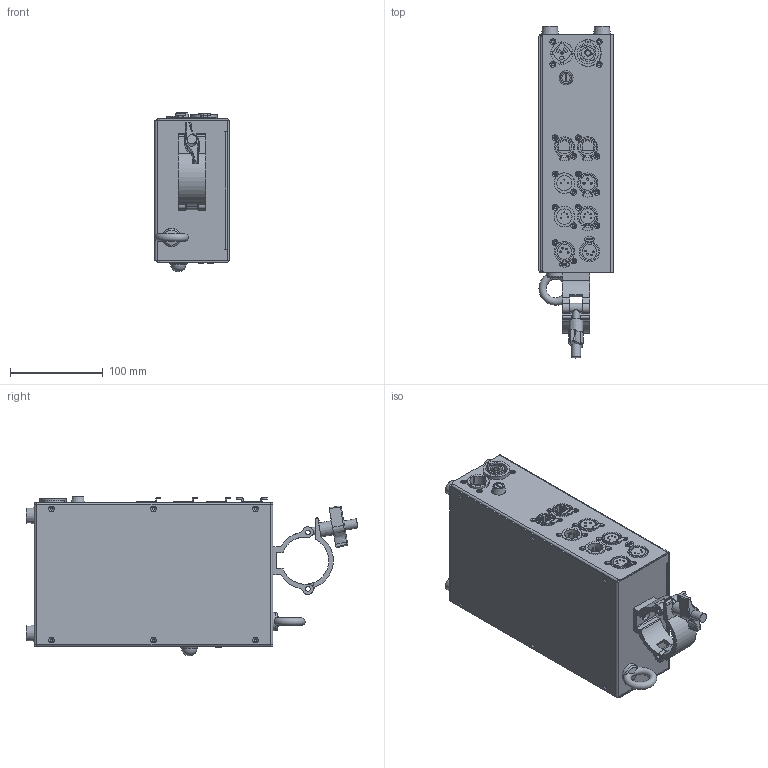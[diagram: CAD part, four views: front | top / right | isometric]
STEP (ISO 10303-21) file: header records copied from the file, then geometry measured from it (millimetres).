
FILE_DESCRIPTION(/* description */ ('Unknown'),/* implementation_level */ '2;1');
FILE_NAME(/* name */ '3D_Driver LED Patt',/* time_stamp */ '2018-06-28T08:13:05+02:00',/* author */ ('Unknown'),/* organization */ ('Unknown'),/* preprocessor_version */ 'ST-DEVELOPER v16.7',/* originating_system */ 'DEX',/* authorisation */ $);
FILE_SCHEMA (('AUTOMOTIVE_DESIGN {1 0 10303 214 3 1 1}'));
Length unit declared in the file: millimetre
Products named in the file (24): 9901xxxx Driver pro LED Patt; 13032023 RB3570 B Ethernet Switch_oa_0; 13050458 Konektor NE 8 F ethernet; 13050103 Pojistkové pouzdro FGP1; 13032108 RB3890-V1.1PIN Female_oa_1; 13052518 Konektor Neutrik NC4FBV; 13052270 Konektor Neutrik NAC3PX; 13031090-04 RB2721 mini LCD display_oa_2; 19020083 Button; 13031090 PCB LCD Diplay WH0802A1-TMI-ET; 13032022 PCB RB3525-L 4xDMX konektory_oa_3; 13050456 Konektor NC 5 F zásuvka; 13050457 Konektor NC 5 M vidlice; 13050454 Konektor NC 3 F zásuvka; 13050455 Konektor NC 3 M vidlice; 11030821 Základna pro zdroj LED Patts_oa_4; 11016047 Základna pro zdroj LEDPatts; 17030990 Clamp KCP-901B - black; 13032108 RB3890-V1.1PIN Female_oa_5; 11030822 Kryt zdroje pro LED Patts_oa_6; 11016048 Kryt zdroje LED Patts; 18560012 Závìsný šroub M8; 13052174 Anténa Wi-Fi TB-928, kabel L=80 mm; 17030016 Gumová nožka GF2
Assembly tree (31 placements, depth 3):
  9901xxxx Driver pro LED Patt
    13032023 RB3570 B Ethernet Switch_oa_0
      13050458 Konektor NE 8 F ethernet  x2
    13050103 Pojistkové pouzdro FGP1
    13032108 RB3890-V1.1PIN Female_oa_1
      13052518 Konektor Neutrik NC4FBV
    13052270 Konektor Neutrik NAC3PX
    13031090-04 RB2721 mini LCD display_oa_2
      19020083 Button  x4
      13031090 PCB LCD Diplay WH0802A1-TMI-ET
    13032022 PCB RB3525-L 4xDMX konektory_oa_3
      13050456 Konektor NC 5 F zásuvka
      13050457 Konektor NC 5 M vidlice
      13050454 Konektor NC 3 F zásuvka
      13050455 Konektor NC 3 M vidlice
    11030821 Základna pro zdroj LED Patts_oa_4
      11016047 Základna pro zdroj LEDPatts
    17030990 Clamp KCP-901B - black
    13032108 RB3890-V1.1PIN Female_oa_5
      13052518 Konektor Neutrik NC4FBV
    11030822 Kryt zdroje pro LED Patts_oa_6
      11016048 Kryt zdroje LED Patts
    18560012 Závìsný šroub M8
    13052174 Anténa Wi-Fi TB-928, kabel L=80 mm
    17030016 Gumová nožka GF2  x4
Bounding box: 80 x 358.03 x 172.2 mm (x, y, z)
Volume: 374346.5 mm3; surface area: 389918.5 mm2
Topology: 28 solids, 28 shells, 1893 faces, 4924 edges, 3257 vertices
Faces by surface type: plane 1170, cylinder 576, cone 83, torus 36, bspline 22, sphere 6
Full cylindrical faces by diameter (mm): 0.8 x23, 1 x11, 1.2 x13, 1.5 x14, 1.544 x2, 1.6 x13, 1.7 x8, 2 x4, 2.2 x16, 2.35 x4, 2.4 x3, 2.5 x13, 3 x4, 3.2 x10, 3.3 x12, 3.4 x4, 3.5 x4, 5 x4, 5.1 x2, 5.28 x1, 6 x2, 6.6 x4, 8 x2, 8.5 x1, 9 x5, 10 x2, 10.5 x1, 10.85 x1, 11 x3, 15 x1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
Entity records: 47301 total; most frequent: CARTESIAN_POINT 9221, DIRECTION 7424, ORIENTED_EDGE 6940, EDGE_CURVE 3470, AXIS2_PLACEMENT_3D 2575, VERTEX_POINT 2419, LINE 2274, VECTOR 2274
